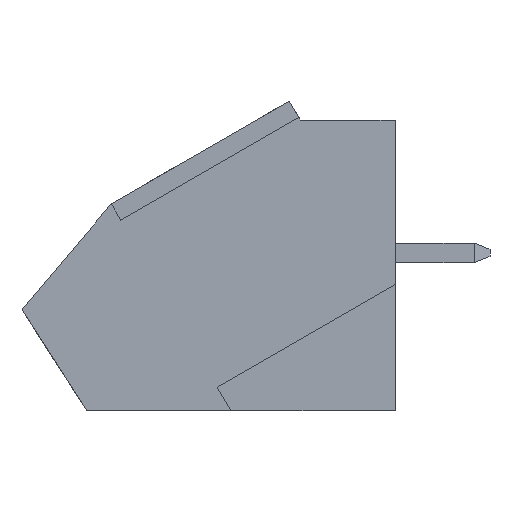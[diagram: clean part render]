
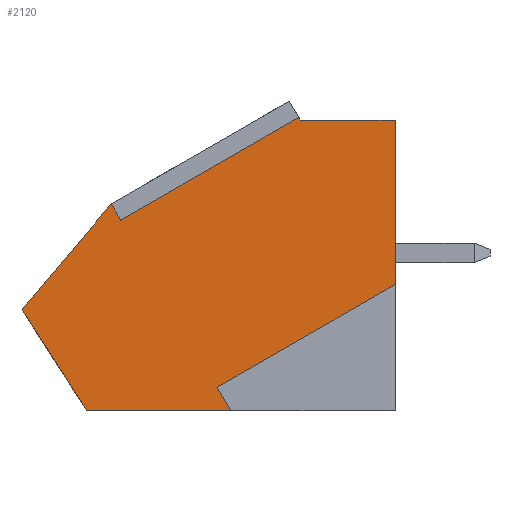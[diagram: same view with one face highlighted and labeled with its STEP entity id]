
A CAD part, left-side view. The second image highlights one B-rep face of the part: STEP entity #2120.
In plain terms, the highlighted planar face has unit normal (-1, 0, 0).
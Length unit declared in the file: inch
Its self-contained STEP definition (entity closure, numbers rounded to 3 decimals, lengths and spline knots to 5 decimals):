
#1=DIRECTION('',(0.,-0.5,-0.866));
#2=VECTOR('',#1,0.03);
#3=CARTESIAN_POINT('',(-0.5,0.44878,0.3275));
#4=LINE('',#3,#2);
#5=DIRECTION('',(0.,-0.866,0.5));
#6=VECTOR('',#5,0.325);
#7=CARTESIAN_POINT('',(-0.5,0.43378,0.30152));
#8=LINE('',#7,#6);
#9=DIRECTION('',(0.,-0.5,-0.866));
#10=VECTOR('',#9,0.00464);
#11=CARTESIAN_POINT('',(-0.5,0.15232,0.46402));
#12=LINE('',#11,#10);
#13=DIRECTION('',(0.,-1.,0.));
#14=VECTOR('',#13,0.15);
#15=CARTESIAN_POINT('',(-0.5,0.15,0.46));
#16=LINE('',#15,#14);
#17=DIRECTION('',(0.,0.,-1.));
#18=VECTOR('',#17,0.25981);
#19=CARTESIAN_POINT('',(-0.5,0.,0.46));
#20=LINE('',#19,#18);
#21=DIRECTION('',(0.,0.866,-0.5));
#22=VECTOR('',#21,0.325);
#23=CARTESIAN_POINT('',(-0.5,0.,0.20019));
#24=LINE('',#23,#22);
#25=DIRECTION('',(0.,-0.5,-0.866));
#26=VECTOR('',#25,0.04352);
#27=CARTESIAN_POINT('',(-0.5,0.28146,0.03769));
#28=LINE('',#27,#26);
#29=DIRECTION('',(0.,1.,0.));
#30=VECTOR('',#29,0.22783);
#31=CARTESIAN_POINT('',(-0.5,0.2597,0.));
#32=LINE('',#31,#30);
#33=DIRECTION('',(0.,0.539,0.842));
#34=VECTOR('',#33,0.19);
#35=CARTESIAN_POINT('',(-0.5,0.48753,0.));
#36=LINE('',#35,#34);
#37=DIRECTION('',(0.,-0.645,0.765));
#38=VECTOR('',#37,0.21909);
#39=CARTESIAN_POINT('',(-0.5,0.59,0.16));
#40=LINE('',#39,#38);
#1601=CARTESIAN_POINT('',(-0.5,0.48753,0.));
#1602=CARTESIAN_POINT('',(-0.5,0.59,0.16));
#1603=VERTEX_POINT('',#1601);
#1604=VERTEX_POINT('',#1602);
#1605=CARTESIAN_POINT('',(-0.5,0.15,0.46));
#1606=CARTESIAN_POINT('',(-0.5,0.,0.46));
#1607=VERTEX_POINT('',#1605);
#1608=VERTEX_POINT('',#1606);
#1645=CARTESIAN_POINT('',(-0.5,0.44878,0.3275));
#1646=CARTESIAN_POINT('',(-0.5,0.43378,0.30152));
#1647=VERTEX_POINT('',#1645);
#1648=VERTEX_POINT('',#1646);
#1649=CARTESIAN_POINT('',(-0.5,0.15232,0.46402));
#1650=VERTEX_POINT('',#1649);
#1651=CARTESIAN_POINT('',(-0.5,0.28146,0.03769));
#1652=CARTESIAN_POINT('',(-0.5,0.2597,0.));
#1653=VERTEX_POINT('',#1651);
#1654=VERTEX_POINT('',#1652);
#1655=CARTESIAN_POINT('',(-0.5,0.,0.20019));
#1656=VERTEX_POINT('',#1655);
#2093=CARTESIAN_POINT('',(-0.5,0.,0.));
#2094=DIRECTION('',(1.,0.,0.));
#2095=DIRECTION('',(0.,0.,-1.));
#2096=AXIS2_PLACEMENT_3D('',#2093,#2094,#2095);
#2097=PLANE('',#2096);
#2099=ORIENTED_EDGE('',*,*,#2098,.T.);
#2101=ORIENTED_EDGE('',*,*,#2100,.T.);
#2103=ORIENTED_EDGE('',*,*,#2102,.T.);
#2105=ORIENTED_EDGE('',*,*,#2104,.T.);
#2107=ORIENTED_EDGE('',*,*,#2106,.T.);
#2109=ORIENTED_EDGE('',*,*,#2108,.T.);
#2111=ORIENTED_EDGE('',*,*,#2110,.T.);
#2113=ORIENTED_EDGE('',*,*,#2112,.T.);
#2115=ORIENTED_EDGE('',*,*,#2114,.T.);
#2117=ORIENTED_EDGE('',*,*,#2116,.T.);
#2118=EDGE_LOOP('',(#2099,#2101,#2103,#2105,#2107,#2109,#2111,#2113,#2115,
#2117));
#2119=FACE_OUTER_BOUND('',#2118,.F.);
#2120=ADVANCED_FACE('',(#2119),#2097,.F.);
#2098=EDGE_CURVE('',#1647,#1648,#4,.T.);
#2100=EDGE_CURVE('',#1648,#1650,#8,.T.);
#2102=EDGE_CURVE('',#1650,#1607,#12,.T.);
#2104=EDGE_CURVE('',#1607,#1608,#16,.T.);
#2106=EDGE_CURVE('',#1608,#1656,#20,.T.);
#2108=EDGE_CURVE('',#1656,#1653,#24,.T.);
#2110=EDGE_CURVE('',#1653,#1654,#28,.T.);
#2112=EDGE_CURVE('',#1654,#1603,#32,.T.);
#2114=EDGE_CURVE('',#1603,#1604,#36,.T.);
#2116=EDGE_CURVE('',#1604,#1647,#40,.T.);
